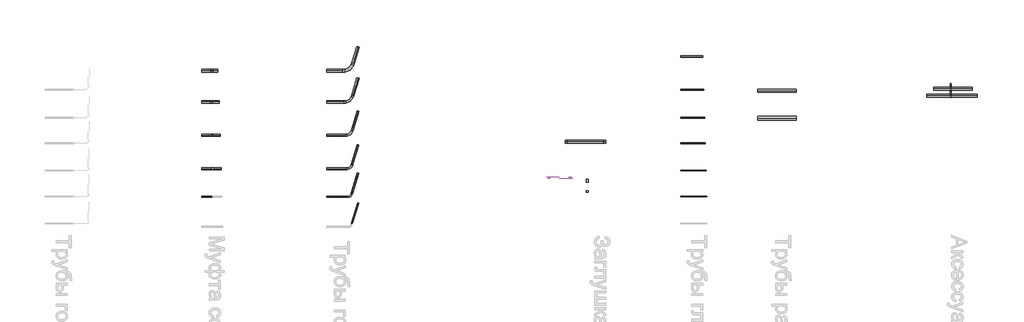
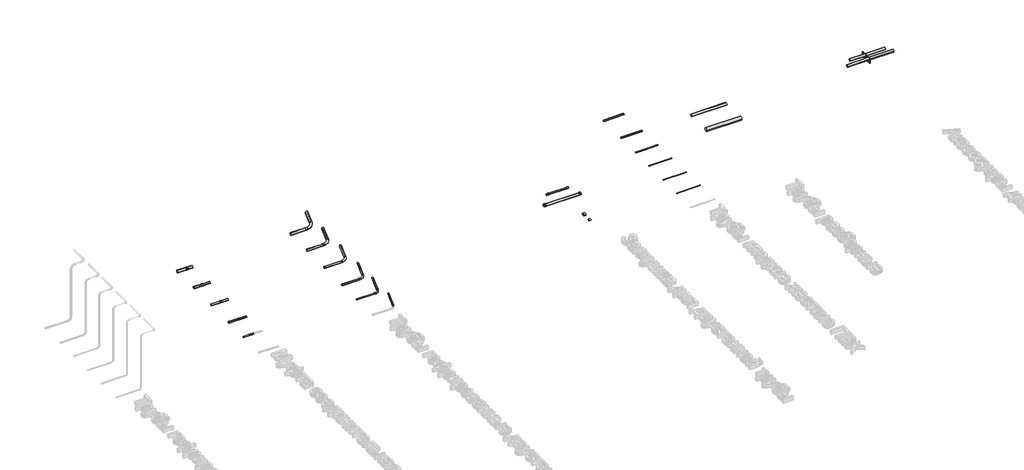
# One storey, part 10 of 33: 34 cable carrier segments, 16 cable carrier fittings.
"""IFC4 building model written with IfcOpenShell, lengths in millimetres."""

from ifc_helpers import new_model, si_unit, point, frame, frame_2d, origin, place, context, project, spatial, circle_curve, trimmed, segment, composite_curve, outline, extrude, transform, mapped, element, save
from components import cable_carrier_fitting_da104670, cable_carrier_fitting_cd123b29, cable_carrier_fitting_abdd7e5e, cable_carrier_fitting_de8c5855, cable_carrier_fitting_0dbc5bf7, cable_carrier_fitting_55c0d0ea, cable_carrier_fitting_1a64ddea, cable_carrier_fitting_92d8cc5c, cable_carrier_fitting_97d35811, cable_carrier_fitting_d1a28d87

model = new_model("IFC4")

# Units and contexts
model_context = context("Model", 3, world=origin())
ifc_project = project(units=[si_unit("LENGTHUNIT", "METRE", prefix="MILLI")], contexts=[model_context])

# Site, building, storey
site = spatial("IfcSite", under=ifc_project)
building = spatial("IfcBuilding", under=site)
storey = spatial("IfcBuildingStorey", under=building, Name="Уровень 1", Elevation=0.0)

# Cable carrier fittings
placement = place(None, origin())
cable_carrier_fitting_shape = cable_carrier_fitting_da104670(model_context)
element("IfcCableCarrierFitting", 1, ObjectType="Заглушка для двустенной трубы : CTA12D-Z063-K02", at=placement, inside=storey, context=model_context, shape_type="MappedRepresentation", body=[
    mapped(cable_carrier_fitting_shape, transform((103932.2480736, 1219.2999654, 0.0), x_axis=(1.0, 0.0, 0.0), y_axis=(0.0, 1.0, 0.0), z_axis=(0.0, 0.0, 1.0))),
])
element("IfcCableCarrierFitting", 2, ObjectType="Заглушка для двустенной трубы : CTA12D-Z063-K02", at=placement, inside=storey, context=model_context, shape_type="MappedRepresentation", body=[
    mapped(cable_carrier_fitting_shape, transform((103279.6879457, 1758.4731855, 1366.2223507), x_axis=(-1.0, 0.0, 0.0), y_axis=(0.0, -1.0, 0.0), z_axis=(0.0, 0.0, 1.0))),
])
element("IfcCableCarrierFitting", 3, ObjectType="Заглушка для двустенной трубы : CTA12D-Z063-K02", at=placement, inside=storey, context=model_context, shape_type="MappedRepresentation", body=[
    mapped(cable_carrier_fitting_shape, transform((102412.6679457, 1758.4731855, 1366.2223507), x_axis=(1.0, 0.0, 0.0), y_axis=(0.0, 1.0, 0.0), z_axis=(0.0, 0.0, 1.0))),
])
cable_carrier_fitting_2_shape = cable_carrier_fitting_cd123b29(model_context)
element("IfcCableCarrierFitting", 4, ObjectType="Заглушка для двустенной трубы : CTA12D-Z110-K02", at=placement, inside=storey, context=model_context, shape_type="MappedRepresentation", body=[
    mapped(cable_carrier_fitting_2_shape, transform((103932.2480736, 1639.2999654, 0.0), x_axis=(1.0, 0.0, 0.0), y_axis=(0.0, 1.0, 0.0), z_axis=(0.0, 0.0, 1.0))),
])
element("IfcCableCarrierFitting", 5, ObjectType="Заглушка для двустенной трубы : CTA12D-Z110-K02", at=placement, inside=storey, context=model_context, shape_type="MappedRepresentation", body=[
    mapped(cable_carrier_fitting_2_shape, transform((104626.4506243, 3168.0895586, -230.93151), x_axis=(-1.0, 0.0, 0.0), y_axis=(0.0, -1.0, 0.0), z_axis=(0.0, 0.0, 1.0))),
])
element("IfcCableCarrierFitting", 6, ObjectType="Заглушка для двустенной трубы : CTA12D-Z110-K02", at=placement, inside=storey, context=model_context, shape_type="MappedRepresentation", body=[
    mapped(cable_carrier_fitting_2_shape, transform((103115.2513198, 3168.0895586, -230.93151), x_axis=(1.0, 0.0, 0.0), y_axis=(0.0, 1.0, 0.0), z_axis=(0.0, 0.0, 1.0))),
])
element("IfcCableCarrierFitting", 7, ObjectType="Муфта соединительная для двустенной трубы : CTA12D-M063-K02", at=placement, inside=storey, context=model_context, shape_type="MappedRepresentation", body=[
    mapped(cable_carrier_fitting_shape, transform((89259.48062, 2111.6836467, 45.929251), x_axis=(1.0, 0.0, 0.0), y_axis=(0.0, 1.0, 0.0), z_axis=(0.0, 0.0, 1.0))),
])
cable_carrier_fitting_3_shape = cable_carrier_fitting_abdd7e5e(model_context)
element("IfcCableCarrierFitting", 8, ObjectType="Муфта соединительная для двустенной трубы : CTA12D-M075-K02", at=placement, inside=storey, context=model_context, shape_type="MappedRepresentation", body=[
    mapped(cable_carrier_fitting_3_shape, transform((89232.2618647, 3431.6836467, 45.929251), x_axis=(1.0, 0.0, 0.0), y_axis=(0.0, 1.0, 0.0), z_axis=(0.0, 0.0, 1.0))),
])
cable_carrier_fitting_4_shape = cable_carrier_fitting_de8c5855(model_context)
element("IfcCableCarrierFitting", 9, ObjectType="Муфта соединительная для двустенной трубы : CTA12D-M090-K02", at=placement, inside=storey, context=model_context, shape_type="MappedRepresentation", body=[
    mapped(cable_carrier_fitting_4_shape, transform((89191.3326136, 4731.6836467, 45.929251), x_axis=(1.0, 0.0, 0.0), y_axis=(0.0, 1.0, 0.0), z_axis=(0.0, 0.0, 1.0))),
])
element("IfcCableCarrierFitting", 10, ObjectType="Муфта соединительная для двустенной трубы : CTA12D-M110-K02", at=placement, inside=storey, context=model_context, shape_type="MappedRepresentation", body=[
    mapped(cable_carrier_fitting_2_shape, transform((89218.5513689, 5951.6836467, 45.929251), x_axis=(1.0, 0.0, 0.0), y_axis=(0.0, 1.0, 0.0), z_axis=(0.0, 0.0, 1.0))),
])
cable_carrier_fitting_5_shape = cable_carrier_fitting_0dbc5bf7(model_context)
element("IfcCableCarrierFitting", 11, ObjectType="Кластер для двустенной трубы d110 : CTA12D-M110-K02", at=placement, inside=storey, context=model_context, shape_type="MappedRepresentation", body=[
    mapped(cable_carrier_fitting_5_shape, transform((118183.4855304, 5244.810841, 45.929251), x_axis=(0.9999999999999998, 0.0, 0.0), y_axis=(0.0, 0.0, 0.999999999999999), z_axis=(0.0, -0.9999999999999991, 0.0))),
])
cable_carrier_fitting_6_shape = cable_carrier_fitting_55c0d0ea(model_context)
element("IfcCableCarrierFitting", 12, ObjectType="Трубы гофрированные двустенные ПНД-ПВД : Трубы гофрированные двустенные ПНД-ПВД", at=placement, inside=storey, context=model_context, shape_type="MappedRepresentation", body=[
    mapped(cable_carrier_fitting_6_shape, transform((94669.1770312, 1011.6836467, 45.929251), x_axis=(1.0, 0.0, 0.0), y_axis=(0.0, 0.9999999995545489, -2.984799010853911e-05), z_axis=(0.0, 2.984799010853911e-05, 0.9999999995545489))),
])
cable_carrier_fitting_7_shape = cable_carrier_fitting_1a64ddea(model_context)
element("IfcCableCarrierFitting", 13, ObjectType="Трубы гофрированные двустенные ПНД-ПВД : Трубы гофрированные двустенные ПНД-ПВД", at=placement, inside=storey, context=model_context, shape_type="MappedRepresentation", body=[
    mapped(cable_carrier_fitting_7_shape, transform((94669.1770312, 2111.6836467, 45.929251), x_axis=(1.0, 0.0, 0.0), y_axis=(0.0, 0.9999999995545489, -2.984799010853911e-05), z_axis=(0.0, 2.984799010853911e-05, 0.9999999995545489))),
])
cable_carrier_fitting_8_shape = cable_carrier_fitting_92d8cc5c(model_context)
element("IfcCableCarrierFitting", 14, ObjectType="Трубы гофрированные двустенные ПНД-ПВД : Трубы гофрированные двустенные ПНД-ПВД", at=placement, inside=storey, context=model_context, shape_type="MappedRepresentation", body=[
    mapped(cable_carrier_fitting_8_shape, transform((94669.1770312, 3431.6836467, 45.929251), x_axis=(1.0, 0.0, 0.0), y_axis=(0.0, 0.9999999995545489, -2.984799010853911e-05), z_axis=(0.0, 2.984799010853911e-05, 0.9999999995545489))),
])
cable_carrier_fitting_9_shape = cable_carrier_fitting_97d35811(model_context)
element("IfcCableCarrierFitting", 15, ObjectType="Трубы гофрированные двустенные ПНД-ПВД : Трубы гофрированные двустенные ПНД-ПВД", at=placement, inside=storey, context=model_context, shape_type="MappedRepresentation", body=[
    mapped(cable_carrier_fitting_9_shape, transform((94669.1770312, 4731.6836467, 45.929251), x_axis=(1.0, 0.0, 0.0), y_axis=(0.0, 0.9999999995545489, -2.984799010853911e-05), z_axis=(0.0, 2.984799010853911e-05, 0.9999999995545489))),
])
cable_carrier_fitting_10_shape = cable_carrier_fitting_d1a28d87(model_context)
element("IfcCableCarrierFitting", 16, ObjectType="Трубы гофрированные двустенные ПНД-ПВД : Трубы гофрированные двустенные ПНД-ПВД", at=placement, inside=storey, context=model_context, shape_type="MappedRepresentation", body=[
    mapped(cable_carrier_fitting_10_shape, transform((94669.1770312, 5951.6836467, 45.929251), x_axis=(1.0, 0.0, 0.0), y_axis=(0.0, 0.9999999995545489, -2.984799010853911e-05), z_axis=(0.0, 2.984799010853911e-05, 0.9999999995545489))),
])

# Cable carrier segments
element("IfcCableCarrierSegment", 17, ObjectType="Трубы разборные", at=placement, inside=storey, context=model_context, shape_type="SweptSolid", body=[
    extrude(outline(composite_curve([segment(trimmed(circle_curve(frame_2d((4091.060841, 45.929251)), 80.0), [point((4171.060841, 45.929251))], [point((4091.060841, -34.070749))], False, "CARTESIAN"), True, "CONTINUOUS"), segment(trimmed(circle_curve(frame_2d((4091.060841, 45.929251)), 80.0), [point((4091.060841, -34.070749))], [point((4011.060841, 45.929251))], False, "CARTESIAN"), True, "CONTINUOUS"), segment(trimmed(circle_curve(frame_2d((4091.060841, 45.929251)), 80.0), [point((4011.060841, 45.929251))], [point((4091.060841, 125.929251))], False, "CARTESIAN"), True, "CONTINUOUS"), segment(trimmed(circle_curve(frame_2d((4091.060841, 45.929251)), 80.0), [point((4091.060841, 125.929251))], [point((4171.060841, 45.929251))], False, "CARTESIAN"), True, "CONTINUOUS")], self_intersect=False)), frame((110617.495363, 0.0, 0.0), z_axis=(1.0, 0.0, 0.0), x_axis=(0.0, 1.0, 0.0)), (0.0, 0.0, 1.0), 1511.1993045),
])
element("IfcCableCarrierSegment", 18, ObjectType="Трубы разборные", at=placement, inside=storey, context=model_context, shape_type="SweptSolid", body=[
    extrude(outline(composite_curve([segment(trimmed(circle_curve(frame_2d((5171.060841, 45.929251)), 55.0), [point((5226.060841, 45.929251))], [point((5171.060841, -9.070749))], False, "CARTESIAN"), True, "CONTINUOUS"), segment(trimmed(circle_curve(frame_2d((5171.060841, 45.929251)), 55.0), [point((5171.060841, -9.070749))], [point((5116.060841, 45.929251))], False, "CARTESIAN"), True, "CONTINUOUS"), segment(trimmed(circle_curve(frame_2d((5171.060841, 45.929251)), 55.0), [point((5116.060841, 45.929251))], [point((5171.060841, 100.929251))], False, "CARTESIAN"), True, "CONTINUOUS"), segment(trimmed(circle_curve(frame_2d((5171.060841, 45.929251)), 55.0), [point((5171.060841, 100.929251))], [point((5226.060841, 45.929251))], False, "CARTESIAN"), True, "CONTINUOUS")], self_intersect=False)), frame((110617.495363, 0.0, 0.0), z_axis=(1.0, 0.0, 0.0), x_axis=(0.0, 1.0, 0.0)), (0.0, 0.0, 1.0), 1511.1993045),
])
element("IfcCableCarrierSegment", 19, ObjectType="Трубы технические гладкие ПНД", at=placement, inside=storey, context=model_context, shape_type="SweptSolid", body=[
    extrude(outline(composite_curve([segment(trimmed(circle_curve(frame_2d((1027.6255993, 45.929251)), 10.0), [point((1017.6255993, 45.929251))], [point((1027.6255993, 55.929251))], False, "CARTESIAN"), True, "CONTINUOUS"), segment(trimmed(circle_curve(frame_2d((1027.6255993, 45.929251)), 10.0), [point((1027.6255993, 55.929251))], [point((1037.6255993, 45.929251))], False, "CARTESIAN"), True, "CONTINUOUS"), segment(trimmed(circle_curve(frame_2d((1027.6255993, 45.929251)), 10.0), [point((1037.6255993, 45.929251))], [point((1027.6255993, 35.929251))], False, "CARTESIAN"), True, "CONTINUOUS"), segment(trimmed(circle_curve(frame_2d((1027.6255993, 45.929251)), 10.0), [point((1027.6255993, 35.929251))], [point((1017.6255993, 45.929251))], False, "CARTESIAN"), True, "CONTINUOUS")], self_intersect=False)), frame((107594.4472755, 0.0, 0.0), z_axis=(1.0, 0.0, 0.0), x_axis=(0.0, 1.0, 0.0)), (0.0, 0.0, 1.0), 1016.5102),
])
element("IfcCableCarrierSegment", 20, ObjectType="Трубы технические гладкие ПНД", at=placement, inside=storey, context=model_context, shape_type="SweptSolid", body=[
    extrude(outline(composite_curve([segment(trimmed(circle_curve(frame_2d((2047.6255993, 45.929251)), 12.5), [point((2035.1255993, 45.929251))], [point((2047.6255993, 58.429251))], False, "CARTESIAN"), True, "CONTINUOUS"), segment(trimmed(circle_curve(frame_2d((2047.6255993, 45.929251)), 12.5), [point((2047.6255993, 58.429251))], [point((2060.1255993, 45.929251))], False, "CARTESIAN"), True, "CONTINUOUS"), segment(trimmed(circle_curve(frame_2d((2047.6255993, 45.929251)), 12.5), [point((2060.1255993, 45.929251))], [point((2047.6255993, 33.429251))], False, "CARTESIAN"), True, "CONTINUOUS"), segment(trimmed(circle_curve(frame_2d((2047.6255993, 45.929251)), 12.5), [point((2047.6255993, 33.429251))], [point((2035.1255993, 45.929251))], False, "CARTESIAN"), True, "CONTINUOUS")], self_intersect=False)), frame((107594.4472755, 0.0, 0.0), z_axis=(1.0, 0.0, 0.0), x_axis=(0.0, 1.0, 0.0)), (0.0, 0.0, 1.0), 997.1046),
])
element("IfcCableCarrierSegment", 21, ObjectType="Трубы технические гладкие ПНД", at=placement, inside=storey, context=model_context, shape_type="SweptSolid", body=[
    extrude(outline(composite_curve([segment(trimmed(circle_curve(frame_2d((3107.6255993, 45.929251)), 16.0), [point((3091.6255993, 45.929251))], [point((3107.6255993, 61.929251))], False, "CARTESIAN"), True, "CONTINUOUS"), segment(trimmed(circle_curve(frame_2d((3107.6255993, 45.929251)), 16.0), [point((3107.6255993, 61.929251))], [point((3123.6255993, 45.929251))], False, "CARTESIAN"), True, "CONTINUOUS"), segment(trimmed(circle_curve(frame_2d((3107.6255993, 45.929251)), 16.0), [point((3123.6255993, 45.929251))], [point((3107.6255993, 29.929251))], False, "CARTESIAN"), True, "CONTINUOUS"), segment(trimmed(circle_curve(frame_2d((3107.6255993, 45.929251)), 16.0), [point((3107.6255993, 29.929251))], [point((3091.6255993, 45.929251))], False, "CARTESIAN"), True, "CONTINUOUS")], self_intersect=False)), frame((107594.4472755, 0.0, 0.0), z_axis=(1.0, 0.0, 0.0), x_axis=(0.0, 1.0, 0.0)), (0.0, 0.0, 1.0), 971.73),
])
element("IfcCableCarrierSegment", 22, ObjectType="Трубы технические гладкие ПНД", at=placement, inside=storey, context=model_context, shape_type="SweptSolid", body=[
    extrude(outline(composite_curve([segment(trimmed(circle_curve(frame_2d((4107.6255993, 45.929251)), 20.0), [point((4087.6255993, 45.929251))], [point((4107.6255993, 65.929251))], False, "CARTESIAN"), True, "CONTINUOUS"), segment(trimmed(circle_curve(frame_2d((4107.6255993, 45.929251)), 20.0), [point((4107.6255993, 65.929251))], [point((4127.6255993, 45.929251))], False, "CARTESIAN"), True, "CONTINUOUS"), segment(trimmed(circle_curve(frame_2d((4107.6255993, 45.929251)), 20.0), [point((4127.6255993, 45.929251))], [point((4107.6255993, 25.929251))], False, "CARTESIAN"), True, "CONTINUOUS"), segment(trimmed(circle_curve(frame_2d((4107.6255993, 45.929251)), 20.0), [point((4107.6255993, 25.929251))], [point((4087.6255993, 45.929251))], False, "CARTESIAN"), True, "CONTINUOUS")], self_intersect=False)), frame((107594.4472755, 0.0, 0.0), z_axis=(1.0, 0.0, 0.0), x_axis=(0.0, 1.0, 0.0)), (0.0, 0.0, 1.0), 943.917),
])
element("IfcCableCarrierSegment", 23, ObjectType="Трубы технические гладкие ПНД", at=placement, inside=storey, context=model_context, shape_type="SweptSolid", body=[
    extrude(outline(composite_curve([segment(trimmed(circle_curve(frame_2d((5207.6255993, 45.929251)), 25.0), [point((5182.6255993, 45.929251))], [point((5207.6255993, 70.929251))], False, "CARTESIAN"), True, "CONTINUOUS"), segment(trimmed(circle_curve(frame_2d((5207.6255993, 45.929251)), 25.0), [point((5207.6255993, 70.929251))], [point((5232.6255993, 45.929251))], False, "CARTESIAN"), True, "CONTINUOUS"), segment(trimmed(circle_curve(frame_2d((5207.6255993, 45.929251)), 25.0), [point((5232.6255993, 45.929251))], [point((5207.6255993, 20.929251))], False, "CARTESIAN"), True, "CONTINUOUS"), segment(trimmed(circle_curve(frame_2d((5207.6255993, 45.929251)), 25.0), [point((5207.6255993, 20.929251))], [point((5182.6255993, 45.929251))], False, "CARTESIAN"), True, "CONTINUOUS")], self_intersect=False)), frame((107594.4472755, 0.0, 0.0), z_axis=(1.0, 0.0, 0.0), x_axis=(0.0, 1.0, 0.0)), (0.0, 0.0, 1.0), 909.5254),
])
element("IfcCableCarrierSegment", 24, ObjectType="Трубы технические гладкие ПНД", at=placement, inside=storey, context=model_context, shape_type="SweptSolid", body=[
    extrude(outline(composite_curve([segment(trimmed(circle_curve(frame_2d((6507.6255993, 45.929251)), 31.5), [point((6476.1255993, 45.929251))], [point((6507.6255993, 77.429251))], False, "CARTESIAN"), True, "CONTINUOUS"), segment(trimmed(circle_curve(frame_2d((6507.6255993, 45.929251)), 31.5), [point((6507.6255993, 77.429251))], [point((6539.1255993, 45.929251))], False, "CARTESIAN"), True, "CONTINUOUS"), segment(trimmed(circle_curve(frame_2d((6507.6255993, 45.929251)), 31.5), [point((6539.1255993, 45.929251))], [point((6507.6255993, 14.429251))], False, "CARTESIAN"), True, "CONTINUOUS"), segment(trimmed(circle_curve(frame_2d((6507.6255993, 45.929251)), 31.5), [point((6507.6255993, 14.429251))], [point((6476.1255993, 45.929251))], False, "CARTESIAN"), True, "CONTINUOUS")], self_intersect=False)), frame((107594.4472755, 0.0, 0.0), z_axis=(1.0, 0.0, 0.0), x_axis=(0.0, 1.0, 0.0)), (0.0, 0.0, 1.0), 867.02),
])
element("IfcCableCarrierSegment", 25, ObjectType="Трубы разборные", at=placement, inside=storey, context=model_context, shape_type="SweptSolid", body=[
    extrude(outline(composite_curve([segment(trimmed(circle_curve(frame_2d((3168.0895586, -230.93151)), 55.0), [point((3223.0895586, -230.93151))], [point((3168.0895586, -285.93151))], False, "CARTESIAN"), True, "CONTINUOUS"), segment(trimmed(circle_curve(frame_2d((3168.0895586, -230.93151)), 55.0), [point((3168.0895586, -285.93151))], [point((3113.0895586, -230.93151))], False, "CARTESIAN"), True, "CONTINUOUS"), segment(trimmed(circle_curve(frame_2d((3168.0895586, -230.93151)), 55.0), [point((3113.0895586, -230.93151))], [point((3168.0895586, -175.93151))], False, "CARTESIAN"), True, "CONTINUOUS"), segment(trimmed(circle_curve(frame_2d((3168.0895586, -230.93151)), 55.0), [point((3168.0895586, -175.93151))], [point((3223.0895586, -230.93151))], False, "CARTESIAN"), True, "CONTINUOUS")], self_intersect=False)), frame((103120.2513198, 0.0, 0.0), z_axis=(1.0, 0.0, 0.0), x_axis=(0.0, 1.0, 0.0)), (0.0, 0.0, 1.0), 1501.1993045),
])
element("IfcCableCarrierSegment", 26, ObjectType="Трубы технические гладкие ПНД", at=placement, inside=storey, context=model_context, shape_type="SweptSolid", body=[
    extrude(outline(composite_curve([segment(trimmed(circle_curve(frame_2d((1758.4731855, 1366.2223507)), 31.5), [point((1726.9731855, 1366.2223507))], [point((1758.4731855, 1397.7223507))], False, "CARTESIAN"), True, "CONTINUOUS"), segment(trimmed(circle_curve(frame_2d((1758.4731855, 1366.2223507)), 31.5), [point((1758.4731855, 1397.7223507))], [point((1789.9731855, 1366.2223507))], False, "CARTESIAN"), True, "CONTINUOUS"), segment(trimmed(circle_curve(frame_2d((1758.4731855, 1366.2223507)), 31.5), [point((1789.9731855, 1366.2223507))], [point((1758.4731855, 1334.7223507))], False, "CARTESIAN"), True, "CONTINUOUS"), segment(trimmed(circle_curve(frame_2d((1758.4731855, 1366.2223507)), 31.5), [point((1758.4731855, 1334.7223507))], [point((1726.9731855, 1366.2223507))], False, "CARTESIAN"), True, "CONTINUOUS")], self_intersect=False)), frame((102417.6679457, 0.0, 0.0), z_axis=(1.0, 0.0, 0.0), x_axis=(0.0, 1.0, 0.0)), (0.0, 0.0, 1.0), 857.02),
])
element("IfcCableCarrierSegment", 27, ObjectType="Трубы гофрированные двустенные ПНД/ПВД", at=placement, inside=storey, context=model_context, shape_type="SweptSolid", body=[
    extrude(outline(composite_curve([segment(trimmed(circle_curve(frame_2d((0.0, -20.0)), 20.0), [point((20.0, -20.0001745))], [point((-0.0001745, -39.9999999))], False, "CARTESIAN"), True, "CONTINUOUS"), segment(trimmed(circle_curve(frame_2d((0.0, -20.0)), 20.0), [point((-0.0001745, -39.9999999))], [point((-20.0, -19.9998255))], False, "CARTESIAN"), True, "CONTINUOUS"), segment(trimmed(circle_curve(frame_2d((0.0, -20.0)), 20.0), [point((-20.0, -19.9998255))], [point((0.0001745, 0.0))], False, "CARTESIAN"), True, "CONTINUOUS"), segment(trimmed(circle_curve(frame_2d((0.0, -20.0)), 20.0), [point((0.0001745, 0.0))], [point((20.0, -20.0001745))], False, "CARTESIAN"), True, "CONTINUOUS")], self_intersect=False)), frame((94954.2394433, 764.0813803, 65.9014208), z_axis=(-0.29237170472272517, -0.956304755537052, 2.854377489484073e-05), x_axis=(0.9563047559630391, -0.2923717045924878, 8.72670774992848e-06)), (0.0, 0.0, 1.0), 849.1084033),
])
element("IfcCableCarrierSegment", 28, ObjectType="Трубы гофрированные двустенные ПНД/ПВД", at=placement, inside=storey, context=model_context, shape_type="SweptSolid", body=[
    extrude(outline(composite_curve([segment(trimmed(circle_curve(frame_2d((1011.6836467, 45.929251)), 25.0), [point((986.6836467, 45.929251))], [point((1011.6836467, 70.929251))], False, "CARTESIAN"), True, "CONTINUOUS"), segment(trimmed(circle_curve(frame_2d((1011.6836467, 45.929251)), 25.0), [point((1011.6836467, 70.929251))], [point((1036.6836467, 45.929251))], False, "CARTESIAN"), True, "CONTINUOUS"), segment(trimmed(circle_curve(frame_2d((1011.6836467, 45.929251)), 25.0), [point((1036.6836467, 45.929251))], [point((1011.6836467, 20.929251))], False, "CARTESIAN"), True, "CONTINUOUS"), segment(trimmed(circle_curve(frame_2d((1011.6836467, 45.929251)), 25.0), [point((1011.6836467, 20.929251))], [point((986.6836467, 45.929251))], False, "CARTESIAN"), True, "CONTINUOUS")], self_intersect=False)), frame((93725.2600312, 0.0, 0.0), z_axis=(1.0, 0.0, 0.0), x_axis=(0.0, 1.0, 0.0)), (0.0, 0.0, 1.0), 791.2757752),
])
element("IfcCableCarrierSegment", 29, ObjectType="Трубы гофрированные двустенные ПНД/ПВД", at=placement, inside=storey, context=model_context, shape_type="SweptSolid", body=[
    extrude(outline(composite_curve([segment(trimmed(circle_curve(frame_2d((0.0, -25.0)), 25.0), [point((25.0, -25.0002182))], [point((-0.0002181, -49.9999999))], False, "CARTESIAN"), True, "CONTINUOUS"), segment(trimmed(circle_curve(frame_2d((0.0, -25.0)), 25.0), [point((-0.0002181, -49.9999999))], [point((-25.0, -24.9997818))], False, "CARTESIAN"), True, "CONTINUOUS"), segment(trimmed(circle_curve(frame_2d((0.0, -25.0)), 25.0), [point((-25.0, -24.9997818))], [point((0.0002181, 0.0))], False, "CARTESIAN"), True, "CONTINUOUS"), segment(trimmed(circle_curve(frame_2d((0.0, -25.0)), 25.0), [point((0.0002181, 0.0))], [point((25.0, -25.0002182))], False, "CARTESIAN"), True, "CONTINUOUS")], self_intersect=False)), frame((94954.2394433, 1944.0815296, 70.9014208), z_axis=(-0.2923717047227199, -0.9563047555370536, 2.8543774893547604e-05), x_axis=(0.9563047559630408, -0.2923717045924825, 8.726707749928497e-06)), (0.0, 0.0, 1.0), 822.3587752),
])
element("IfcCableCarrierSegment", 30, ObjectType="Трубы гофрированные двустенные ПНД/ПВД", at=placement, inside=storey, context=model_context, shape_type="SweptSolid", body=[
    extrude(outline(composite_curve([segment(trimmed(circle_curve(frame_2d((2111.6836467, 45.929251)), 31.5), [point((2080.1836467, 45.929251))], [point((2111.6836467, 77.429251))], False, "CARTESIAN"), True, "CONTINUOUS"), segment(trimmed(circle_curve(frame_2d((2111.6836467, 45.929251)), 31.5), [point((2111.6836467, 77.429251))], [point((2143.1836467, 45.929251))], False, "CARTESIAN"), True, "CONTINUOUS"), segment(trimmed(circle_curve(frame_2d((2111.6836467, 45.929251)), 31.5), [point((2143.1836467, 45.929251))], [point((2111.6836467, 14.429251))], False, "CARTESIAN"), True, "CONTINUOUS"), segment(trimmed(circle_curve(frame_2d((2111.6836467, 45.929251)), 31.5), [point((2111.6836467, 14.429251))], [point((2080.1836467, 45.929251))], False, "CARTESIAN"), True, "CONTINUOUS")], self_intersect=False)), frame((93725.2600312, 0.0, 0.0), z_axis=(1.0, 0.0, 0.0), x_axis=(0.0, 1.0, 0.0)), (0.0, 0.0, 1.0), 760.0843568),
])
element("IfcCableCarrierSegment", 31, ObjectType="Трубы гофрированные двустенные ПНД/ПВД", at=placement, inside=storey, context=model_context, shape_type="SweptSolid", body=[
    extrude(outline(composite_curve([segment(trimmed(circle_curve(frame_2d((0.0, -31.5)), 31.5), [point((31.5, -31.5002749))], [point((-0.0002749, -62.9999999))], False, "CARTESIAN"), True, "CONTINUOUS"), segment(trimmed(circle_curve(frame_2d((0.0, -31.5)), 31.5), [point((-0.0002749, -62.9999999))], [point((-31.5, -31.4997251))], False, "CARTESIAN"), True, "CONTINUOUS"), segment(trimmed(circle_curve(frame_2d((0.0, -31.5)), 31.5), [point((-31.5, -31.4997251))], [point((0.0002749, 0.0))], False, "CARTESIAN"), True, "CONTINUOUS"), segment(trimmed(circle_curve(frame_2d((0.0, -31.5)), 31.5), [point((0.0002749, 0.0))], [point((31.5, -31.5002749))], False, "CARTESIAN"), True, "CONTINUOUS")], self_intersect=False)), frame((94954.2394433, 3044.0817236, 77.4014208), z_axis=(-0.29237170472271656, -0.9563047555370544, 2.854377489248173e-05), x_axis=(0.9563047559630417, -0.29237170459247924, 8.726707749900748e-06)), (0.0, 0.0, 1.0), 791.1673568),
])
element("IfcCableCarrierSegment", 32, ObjectType="Трубы гофрированные двустенные ПНД/ПВД", at=placement, inside=storey, context=model_context, shape_type="SweptSolid", body=[
    extrude(outline(composite_curve([segment(trimmed(circle_curve(frame_2d((3431.6836467, 45.929251)), 37.5), [point((3394.1836467, 45.929251))], [point((3431.6836467, 83.429251))], False, "CARTESIAN"), True, "CONTINUOUS"), segment(trimmed(circle_curve(frame_2d((3431.6836467, 45.929251)), 37.5), [point((3431.6836467, 83.429251))], [point((3469.1836467, 45.929251))], False, "CARTESIAN"), True, "CONTINUOUS"), segment(trimmed(circle_curve(frame_2d((3431.6836467, 45.929251)), 37.5), [point((3469.1836467, 45.929251))], [point((3431.6836467, 8.429251))], False, "CARTESIAN"), True, "CONTINUOUS"), segment(trimmed(circle_curve(frame_2d((3431.6836467, 45.929251)), 37.5), [point((3431.6836467, 8.429251))], [point((3394.1836467, 45.929251))], False, "CARTESIAN"), True, "CONTINUOUS")], self_intersect=False)), frame((93725.2600312, 0.0, 0.0), z_axis=(1.0, 0.0, 0.0), x_axis=(0.0, 1.0, 0.0)), (0.0, 0.0, 1.0), 727.9257581),
])
element("IfcCableCarrierSegment", 33, ObjectType="Трубы гофрированные двустенные ПНД/ПВД", at=placement, inside=storey, context=model_context, shape_type="SweptSolid", body=[
    extrude(outline(composite_curve([segment(trimmed(circle_curve(frame_2d((0.0, -37.5)), 37.5), [point((37.5, -37.5003273))], [point((-0.0003273, -74.9999999))], False, "CARTESIAN"), True, "CONTINUOUS"), segment(trimmed(circle_curve(frame_2d((0.0, -37.5)), 37.5), [point((-0.0003273, -74.9999999))], [point((-37.5, -37.4996728))], False, "CARTESIAN"), True, "CONTINUOUS"), segment(trimmed(circle_curve(frame_2d((0.0, -37.5)), 37.5), [point((-37.5, -37.4996728))], [point((0.0003272, 0.0))], False, "CARTESIAN"), True, "CONTINUOUS"), segment(trimmed(circle_curve(frame_2d((0.0, -37.5)), 37.5), [point((0.0003272, 0.0))], [point((37.5, -37.5003273))], False, "CARTESIAN"), True, "CONTINUOUS")], self_intersect=False)), frame((94954.2394433, 4364.0819027, 83.4014208), z_axis=(-0.2923717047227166, -0.9563047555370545, 2.8543774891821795e-05), x_axis=(0.9563047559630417, -0.29237170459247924, 8.726707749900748e-06)), (0.0, 0.0, 1.0), 759.0087581),
])
element("IfcCableCarrierSegment", 34, ObjectType="Трубы гофрированные двустенные ПНД/ПВД", at=placement, inside=storey, context=model_context, shape_type="SweptSolid", body=[
    extrude(outline(composite_curve([segment(trimmed(circle_curve(frame_2d((4731.6836467, 45.929251)), 45.0), [point((4686.6836467, 45.929251))], [point((4731.6836467, 90.929251))], False, "CARTESIAN"), True, "CONTINUOUS"), segment(trimmed(circle_curve(frame_2d((4731.6836467, 45.929251)), 45.0), [point((4731.6836467, 90.929251))], [point((4776.6836467, 45.929251))], False, "CARTESIAN"), True, "CONTINUOUS"), segment(trimmed(circle_curve(frame_2d((4731.6836467, 45.929251)), 45.0), [point((4776.6836467, 45.929251))], [point((4731.6836467, 0.929251))], False, "CARTESIAN"), True, "CONTINUOUS"), segment(trimmed(circle_curve(frame_2d((4731.6836467, 45.929251)), 45.0), [point((4731.6836467, 0.929251))], [point((4686.6836467, 45.929251))], False, "CARTESIAN"), True, "CONTINUOUS")], self_intersect=False)), frame((93725.2600312, 0.0, 0.0), z_axis=(1.0, 0.0, 0.0), x_axis=(0.0, 1.0, 0.0)), (0.0, 0.0, 1.0), 687.7275097),
])
element("IfcCableCarrierSegment", 35, ObjectType="Трубы гофрированные двустенные ПНД/ПВД", at=placement, inside=storey, context=model_context, shape_type="SweptSolid", body=[
    extrude(outline(composite_curve([segment(trimmed(circle_curve(frame_2d((0.0, -45.0)), 45.0), [point((45.0, -45.0003927))], [point((-0.0003927, -89.9999999))], False, "CARTESIAN"), True, "CONTINUOUS"), segment(trimmed(circle_curve(frame_2d((0.0, -45.0)), 45.0), [point((-0.0003927, -89.9999999))], [point((-45.0, -44.9996073))], False, "CARTESIAN"), True, "CONTINUOUS"), segment(trimmed(circle_curve(frame_2d((0.0, -45.0)), 45.0), [point((-45.0, -44.9996073))], [point((0.0003927, 0.0))], False, "CARTESIAN"), True, "CONTINUOUS"), segment(trimmed(circle_curve(frame_2d((0.0, -45.0)), 45.0), [point((0.0003927, 0.0))], [point((45.0, -45.0003927))], False, "CARTESIAN"), True, "CONTINUOUS")], self_intersect=False)), frame((94954.2394433, 5664.0821265, 90.9014208), z_axis=(-0.2923717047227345, -0.9563047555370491, 2.8543774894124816e-05), x_axis=(0.9563047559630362, -0.2923717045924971, 8.726707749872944e-06)), (0.0, 0.0, 1.0), 718.8105097),
])
element("IfcCableCarrierSegment", 36, ObjectType="Трубы гофрированные двустенные ПНД/ПВД", at=placement, inside=storey, context=model_context, shape_type="SweptSolid", body=[
    extrude(outline(composite_curve([segment(trimmed(circle_curve(frame_2d((5951.6836467, 45.929251)), 55.0), [point((5896.6836467, 45.929251))], [point((5951.6836467, 100.929251))], False, "CARTESIAN"), True, "CONTINUOUS"), segment(trimmed(circle_curve(frame_2d((5951.6836467, 45.929251)), 55.0), [point((5951.6836467, 100.929251))], [point((6006.6836467, 45.929251))], False, "CARTESIAN"), True, "CONTINUOUS"), segment(trimmed(circle_curve(frame_2d((5951.6836467, 45.929251)), 55.0), [point((6006.6836467, 45.929251))], [point((5951.6836467, -9.070749))], False, "CARTESIAN"), True, "CONTINUOUS"), segment(trimmed(circle_curve(frame_2d((5951.6836467, 45.929251)), 55.0), [point((5951.6836467, -9.070749))], [point((5896.6836467, 45.929251))], False, "CARTESIAN"), True, "CONTINUOUS")], self_intersect=False)), frame((93725.2600312, 0.0, 0.0), z_axis=(1.0, 0.0, 0.0), x_axis=(0.0, 1.0, 0.0)), (0.0, 0.0, 1.0), 634.1298452),
])
element("IfcCableCarrierSegment", 37, ObjectType="Трубы гофрированные двустенные ПНД/ПВД", at=placement, inside=storey, context=model_context, shape_type="SweptSolid", body=[
    extrude(outline(composite_curve([segment(trimmed(circle_curve(frame_2d((0.0, -55.0)), 55.0), [point((55.0, -55.00048))], [point((-0.00048, -109.9999999))], False, "CARTESIAN"), True, "CONTINUOUS"), segment(trimmed(circle_curve(frame_2d((0.0, -55.0)), 55.0), [point((-0.00048, -109.9999999))], [point((-55.0, -54.9995201))], False, "CARTESIAN"), True, "CONTINUOUS"), segment(trimmed(circle_curve(frame_2d((0.0, -55.0)), 55.0), [point((-55.0, -54.9995201))], [point((0.00048, 0.0))], False, "CARTESIAN"), True, "CONTINUOUS"), segment(trimmed(circle_curve(frame_2d((0.0, -55.0)), 55.0), [point((0.00048, 0.0))], [point((55.0, -55.00048))], False, "CARTESIAN"), True, "CONTINUOUS")], self_intersect=False)), frame((94954.2394433, 6884.082425, 100.9014208), z_axis=(-0.2923717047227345, -0.9563047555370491, 2.8543774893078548e-05), x_axis=(0.9563047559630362, -0.2923717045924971, 8.726707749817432e-06)), (0.0, 0.0, 1.0), 665.2128452),
])
element("IfcCableCarrierSegment", 38, ObjectType="Трубы гофрированные двустенные ПНД/ПВД", at=placement, inside=storey, context=model_context, shape_type="SweptSolid", body=[
    extrude(outline(composite_curve([segment(trimmed(circle_curve(frame_2d((2111.6836467, 45.929251)), 31.5), [point((2080.1836467, 45.929251))], [point((2111.6836467, 77.429251))], False, "CARTESIAN"), True, "CONTINUOUS"), segment(trimmed(circle_curve(frame_2d((2111.6836467, 45.929251)), 31.5), [point((2111.6836467, 77.429251))], [point((2143.1836467, 45.929251))], False, "CARTESIAN"), True, "CONTINUOUS"), segment(trimmed(circle_curve(frame_2d((2111.6836467, 45.929251)), 31.5), [point((2143.1836467, 45.929251))], [point((2111.6836467, 14.429251))], False, "CARTESIAN"), True, "CONTINUOUS"), segment(trimmed(circle_curve(frame_2d((2111.6836467, 45.929251)), 31.5), [point((2111.6836467, 14.429251))], [point((2080.1836467, 45.929251))], False, "CARTESIAN"), True, "CONTINUOUS")], self_intersect=False)), frame((89264.48062, 0.0, 0.0), z_axis=(1.0, 0.0, 0.0), x_axis=(0.0, 1.0, 0.0)), (0.0, 0.0, 1.0), 320.8637681),
])
element("IfcCableCarrierSegment", 39, ObjectType="Трубы гофрированные двустенные ПНД/ПВД", at=placement, inside=storey, context=model_context, shape_type="SweptSolid", body=[
    extrude(outline(composite_curve([segment(trimmed(circle_curve(frame_2d((3431.6836467, 45.929251)), 37.5), [point((3394.1836467, 45.929251))], [point((3431.6836467, 83.429251))], False, "CARTESIAN"), True, "CONTINUOUS"), segment(trimmed(circle_curve(frame_2d((3431.6836467, 45.929251)), 37.5), [point((3431.6836467, 83.429251))], [point((3469.1836467, 45.929251))], False, "CARTESIAN"), True, "CONTINUOUS"), segment(trimmed(circle_curve(frame_2d((3431.6836467, 45.929251)), 37.5), [point((3469.1836467, 45.929251))], [point((3431.6836467, 8.429251))], False, "CARTESIAN"), True, "CONTINUOUS"), segment(trimmed(circle_curve(frame_2d((3431.6836467, 45.929251)), 37.5), [point((3431.6836467, 8.429251))], [point((3394.1836467, 45.929251))], False, "CARTESIAN"), True, "CONTINUOUS")], self_intersect=False)), frame((89237.2618647, 0.0, 0.0), z_axis=(1.0, 0.0, 0.0), x_axis=(0.0, 1.0, 0.0)), (0.0, 0.0, 1.0), 315.9239246),
])
element("IfcCableCarrierSegment", 40, ObjectType="Трубы гофрированные двустенные ПНД/ПВД", at=placement, inside=storey, context=model_context, shape_type="SweptSolid", body=[
    extrude(outline(composite_curve([segment(trimmed(circle_curve(frame_2d((4731.6836467, 45.929251)), 45.0), [point((4686.6836467, 45.929251))], [point((4731.6836467, 90.929251))], False, "CARTESIAN"), True, "CONTINUOUS"), segment(trimmed(circle_curve(frame_2d((4731.6836467, 45.929251)), 45.0), [point((4731.6836467, 90.929251))], [point((4776.6836467, 45.929251))], False, "CARTESIAN"), True, "CONTINUOUS"), segment(trimmed(circle_curve(frame_2d((4731.6836467, 45.929251)), 45.0), [point((4776.6836467, 45.929251))], [point((4731.6836467, 0.929251))], False, "CARTESIAN"), True, "CONTINUOUS"), segment(trimmed(circle_curve(frame_2d((4731.6836467, 45.929251)), 45.0), [point((4731.6836467, 0.929251))], [point((4686.6836467, 45.929251))], False, "CARTESIAN"), True, "CONTINUOUS")], self_intersect=False)), frame((89196.3326136, 0.0, 0.0), z_axis=(1.0, 0.0, 0.0), x_axis=(0.0, 1.0, 0.0)), (0.0, 0.0, 1.0), 316.6549273),
])
element("IfcCableCarrierSegment", 41, ObjectType="Трубы гофрированные двустенные ПНД/ПВД", at=placement, inside=storey, context=model_context, shape_type="SweptSolid", body=[
    extrude(outline(composite_curve([segment(trimmed(circle_curve(frame_2d((5951.6836467, 45.929251)), 55.0), [point((5896.6836467, 45.929251))], [point((5951.6836467, 100.929251))], False, "CARTESIAN"), True, "CONTINUOUS"), segment(trimmed(circle_curve(frame_2d((5951.6836467, 45.929251)), 55.0), [point((5951.6836467, 100.929251))], [point((6006.6836467, 45.929251))], False, "CARTESIAN"), True, "CONTINUOUS"), segment(trimmed(circle_curve(frame_2d((5951.6836467, 45.929251)), 55.0), [point((6006.6836467, 45.929251))], [point((5951.6836467, -9.070749))], False, "CARTESIAN"), True, "CONTINUOUS"), segment(trimmed(circle_curve(frame_2d((5951.6836467, 45.929251)), 55.0), [point((5951.6836467, -9.070749))], [point((5896.6836467, 45.929251))], False, "CARTESIAN"), True, "CONTINUOUS")], self_intersect=False)), frame((89223.5513689, 0.0, 0.0), z_axis=(1.0, 0.0, 0.0), x_axis=(0.0, 1.0, 0.0)), (0.0, 0.0, 1.0), 235.8385075),
])
element("IfcCableCarrierSegment", 42, ObjectType="Трубы гофрированные двустенные ПНД/ПВД", at=placement, inside=storey, context=model_context, shape_type="SweptSolid", body=[
    extrude(outline(composite_curve([segment(trimmed(circle_curve(frame_2d((1011.6836467, 45.929251)), 25.0), [point((986.6836467, 45.929251))], [point((1011.6836467, 70.929251))], False, "CARTESIAN"), True, "CONTINUOUS"), segment(trimmed(circle_curve(frame_2d((1011.6836467, 45.929251)), 25.0), [point((1011.6836467, 70.929251))], [point((1036.6836467, 45.929251))], False, "CARTESIAN"), True, "CONTINUOUS"), segment(trimmed(circle_curve(frame_2d((1011.6836467, 45.929251)), 25.0), [point((1036.6836467, 45.929251))], [point((1011.6836467, 20.929251))], False, "CARTESIAN"), True, "CONTINUOUS"), segment(trimmed(circle_curve(frame_2d((1011.6836467, 45.929251)), 25.0), [point((1011.6836467, 20.929251))], [point((986.6836467, 45.929251))], False, "CARTESIAN"), True, "CONTINUOUS")], self_intersect=False)), frame((88825.2600312, 0.0, 0.0), z_axis=(1.0, 0.0, 0.0), x_axis=(0.0, 1.0, 0.0)), (0.0, 0.0, 1.0), 442.9310845),
])
element("IfcCableCarrierSegment", 43, ObjectType="Трубы гофрированные двустенные ПНД/ПВД", at=placement, inside=storey, context=model_context, shape_type="SweptSolid", body=[
    extrude(outline(composite_curve([segment(trimmed(circle_curve(frame_2d((2111.6836467, 45.929251)), 31.5), [point((2080.1836467, 45.929251))], [point((2111.6836467, 77.429251))], False, "CARTESIAN"), True, "CONTINUOUS"), segment(trimmed(circle_curve(frame_2d((2111.6836467, 45.929251)), 31.5), [point((2111.6836467, 77.429251))], [point((2143.1836467, 45.929251))], False, "CARTESIAN"), True, "CONTINUOUS"), segment(trimmed(circle_curve(frame_2d((2111.6836467, 45.929251)), 31.5), [point((2143.1836467, 45.929251))], [point((2111.6836467, 14.429251))], False, "CARTESIAN"), True, "CONTINUOUS"), segment(trimmed(circle_curve(frame_2d((2111.6836467, 45.929251)), 31.5), [point((2111.6836467, 14.429251))], [point((2080.1836467, 45.929251))], False, "CARTESIAN"), True, "CONTINUOUS")], self_intersect=False)), frame((88825.2600312, 0.0, 0.0), z_axis=(1.0, 0.0, 0.0), x_axis=(0.0, 1.0, 0.0)), (0.0, 0.0, 1.0), 429.2205888),
])
element("IfcCableCarrierSegment", 44, ObjectType="Трубы гофрированные двустенные ПНД/ПВД", at=placement, inside=storey, context=model_context, shape_type="SweptSolid", body=[
    extrude(outline(composite_curve([segment(trimmed(circle_curve(frame_2d((3431.6836467, 45.929251)), 37.5), [point((3394.1836467, 45.929251))], [point((3431.6836467, 83.429251))], False, "CARTESIAN"), True, "CONTINUOUS"), segment(trimmed(circle_curve(frame_2d((3431.6836467, 45.929251)), 37.5), [point((3431.6836467, 83.429251))], [point((3469.1836467, 45.929251))], False, "CARTESIAN"), True, "CONTINUOUS"), segment(trimmed(circle_curve(frame_2d((3431.6836467, 45.929251)), 37.5), [point((3469.1836467, 45.929251))], [point((3431.6836467, 8.429251))], False, "CARTESIAN"), True, "CONTINUOUS"), segment(trimmed(circle_curve(frame_2d((3431.6836467, 45.929251)), 37.5), [point((3431.6836467, 8.429251))], [point((3394.1836467, 45.929251))], False, "CARTESIAN"), True, "CONTINUOUS")], self_intersect=False)), frame((88825.2600312, 0.0, 0.0), z_axis=(1.0, 0.0, 0.0), x_axis=(0.0, 1.0, 0.0)), (0.0, 0.0, 1.0), 402.0018335),
])
element("IfcCableCarrierSegment", 45, ObjectType="Трубы гофрированные двустенные ПНД/ПВД", at=placement, inside=storey, context=model_context, shape_type="SweptSolid", body=[
    extrude(outline(composite_curve([segment(trimmed(circle_curve(frame_2d((4731.6836467, 45.929251)), 45.0), [point((4686.6836467, 45.929251))], [point((4731.6836467, 90.929251))], False, "CARTESIAN"), True, "CONTINUOUS"), segment(trimmed(circle_curve(frame_2d((4731.6836467, 45.929251)), 45.0), [point((4731.6836467, 90.929251))], [point((4776.6836467, 45.929251))], False, "CARTESIAN"), True, "CONTINUOUS"), segment(trimmed(circle_curve(frame_2d((4731.6836467, 45.929251)), 45.0), [point((4776.6836467, 45.929251))], [point((4731.6836467, 0.929251))], False, "CARTESIAN"), True, "CONTINUOUS"), segment(trimmed(circle_curve(frame_2d((4731.6836467, 45.929251)), 45.0), [point((4731.6836467, 0.929251))], [point((4686.6836467, 45.929251))], False, "CARTESIAN"), True, "CONTINUOUS")], self_intersect=False)), frame((88825.2600312, 0.0, 0.0), z_axis=(1.0, 0.0, 0.0), x_axis=(0.0, 1.0, 0.0)), (0.0, 0.0, 1.0), 361.0725824),
])
element("IfcCableCarrierSegment", 46, ObjectType="Трубы гофрированные двустенные ПНД/ПВД", at=placement, inside=storey, context=model_context, shape_type="SweptSolid", body=[
    extrude(outline(composite_curve([segment(trimmed(circle_curve(frame_2d((5951.6836467, 45.929251)), 55.0), [point((5896.6836467, 45.929251))], [point((5951.6836467, 100.929251))], False, "CARTESIAN"), True, "CONTINUOUS"), segment(trimmed(circle_curve(frame_2d((5951.6836467, 45.929251)), 55.0), [point((5951.6836467, 100.929251))], [point((6006.6836467, 45.929251))], False, "CARTESIAN"), True, "CONTINUOUS"), segment(trimmed(circle_curve(frame_2d((5951.6836467, 45.929251)), 55.0), [point((6006.6836467, 45.929251))], [point((5951.6836467, -9.070749))], False, "CARTESIAN"), True, "CONTINUOUS"), segment(trimmed(circle_curve(frame_2d((5951.6836467, 45.929251)), 55.0), [point((5951.6836467, -9.070749))], [point((5896.6836467, 45.929251))], False, "CARTESIAN"), True, "CONTINUOUS")], self_intersect=False)), frame((88825.2600312, 0.0, 0.0), z_axis=(1.0, 0.0, 0.0), x_axis=(0.0, 1.0, 0.0)), (0.0, 0.0, 1.0), 388.2913377),
])
element("IfcCableCarrierSegment", 47, ObjectType="Трубы разборные", at=placement, inside=storey, context=model_context, shape_type="SweptSolid", body=[
    extrude(outline(composite_curve([segment(trimmed(circle_curve(frame_2d((5244.810841, 119.679251)), 55.0), [point((5299.810841, 119.679251))], [point((5244.810841, 64.679251))], False, "CARTESIAN"), True, "CONTINUOUS"), segment(trimmed(circle_curve(frame_2d((5244.810841, 119.679251)), 55.0), [point((5244.810841, 64.679251))], [point((5189.810841, 119.679251))], False, "CARTESIAN"), True, "CONTINUOUS"), segment(trimmed(circle_curve(frame_2d((5244.810841, 119.679251)), 55.0), [point((5189.810841, 119.679251))], [point((5244.810841, 174.679251))], False, "CARTESIAN"), True, "CONTINUOUS"), segment(trimmed(circle_curve(frame_2d((5244.810841, 119.679251)), 55.0), [point((5244.810841, 174.679251))], [point((5299.810841, 119.679251))], False, "CARTESIAN"), True, "CONTINUOUS")], self_intersect=False)), frame((117517.495363, 0.0, 0.0), z_axis=(1.0, 0.0, 0.0), x_axis=(0.0, 1.0, 0.0)), (0.0, 0.0, 1.0), 665.9901674),
])
element("IfcCableCarrierSegment", 48, ObjectType="Трубы разборные", at=placement, inside=storey, context=model_context, shape_type="SweptSolid", body=[
    extrude(outline(composite_curve([segment(trimmed(circle_curve(frame_2d((5244.810841, 119.679251)), 55.0), [point((5299.810841, 119.679251))], [point((5244.810841, 64.679251))], False, "CARTESIAN"), True, "CONTINUOUS"), segment(trimmed(circle_curve(frame_2d((5244.810841, 119.679251)), 55.0), [point((5244.810841, 64.679251))], [point((5189.810841, 119.679251))], False, "CARTESIAN"), True, "CONTINUOUS"), segment(trimmed(circle_curve(frame_2d((5244.810841, 119.679251)), 55.0), [point((5189.810841, 119.679251))], [point((5244.810841, 174.679251))], False, "CARTESIAN"), True, "CONTINUOUS"), segment(trimmed(circle_curve(frame_2d((5244.810841, 119.679251)), 55.0), [point((5244.810841, 174.679251))], [point((5299.810841, 119.679251))], False, "CARTESIAN"), True, "CONTINUOUS")], self_intersect=False)), frame((118188.4855304, 0.0, 0.0), z_axis=(1.0, 0.0, 0.0), x_axis=(0.0, 1.0, 0.0)), (0.0, 0.0, 1.0), 840.209137),
])
element("IfcCableCarrierSegment", 49, ObjectType="Трубы разборные", at=placement, inside=storey, context=model_context, shape_type="SweptSolid", body=[
    extrude(outline(composite_curve([segment(trimmed(circle_curve(frame_2d((0.0, 55.0)), 55.0), [point((-55.0, 55.0))], [point((0.0, 110.0))], False, "CARTESIAN"), True, "CONTINUOUS"), segment(trimmed(circle_curve(frame_2d((0.0, 55.0)), 55.0), [point((0.0, 110.0))], [point((55.0, 55.0))], False, "CARTESIAN"), True, "CONTINUOUS"), segment(trimmed(circle_curve(frame_2d((0.0, 55.0)), 55.0), [point((55.0, 55.0))], [point((0.0, 0.0))], False, "CARTESIAN"), True, "CONTINUOUS"), segment(trimmed(circle_curve(frame_2d((0.0, 55.0)), 55.0), [point((0.0, 0.0))], [point((-55.0, 55.0))], False, "CARTESIAN"), True, "CONTINUOUS")], self_intersect=False)), frame((118183.4843228, 4966.060841, 64.679251), z_axis=(-0.9999999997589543, 0.0, 2.1956581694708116e-05), x_axis=(0.0, -1.0, 0.0)), (0.0, 0.0, 1.0), 945.0000002),
])
element("IfcCableCarrierSegment", 50, ObjectType="Трубы разборные", at=placement, inside=storey, context=model_context, shape_type="SweptSolid", body=[
    extrude(outline(composite_curve([segment(trimmed(circle_curve(frame_2d((0.0, 55.0)), 55.0), [point((-55.0, 55.0))], [point((0.0, 110.0))], False, "CARTESIAN"), True, "CONTINUOUS"), segment(trimmed(circle_curve(frame_2d((0.0, 55.0)), 55.0), [point((0.0, 110.0))], [point((55.0, 55.0))], False, "CARTESIAN"), True, "CONTINUOUS"), segment(trimmed(circle_curve(frame_2d((0.0, 55.0)), 55.0), [point((55.0, 55.0))], [point((0.0, 0.0))], False, "CARTESIAN"), True, "CONTINUOUS"), segment(trimmed(circle_curve(frame_2d((0.0, 55.0)), 55.0), [point((0.0, 0.0))], [point((-55.0, 55.0))], False, "CARTESIAN"), True, "CONTINUOUS")], self_intersect=False)), frame((118188.4866277, 4966.060841, 64.679251), z_axis=(0.9999999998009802, 0.0, 1.9950932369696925e-05), x_axis=(0.0, 1.0, 0.0)), (0.0, 0.0, 1.0), 1040.0000002),
])

save(model, "model.ifc")
